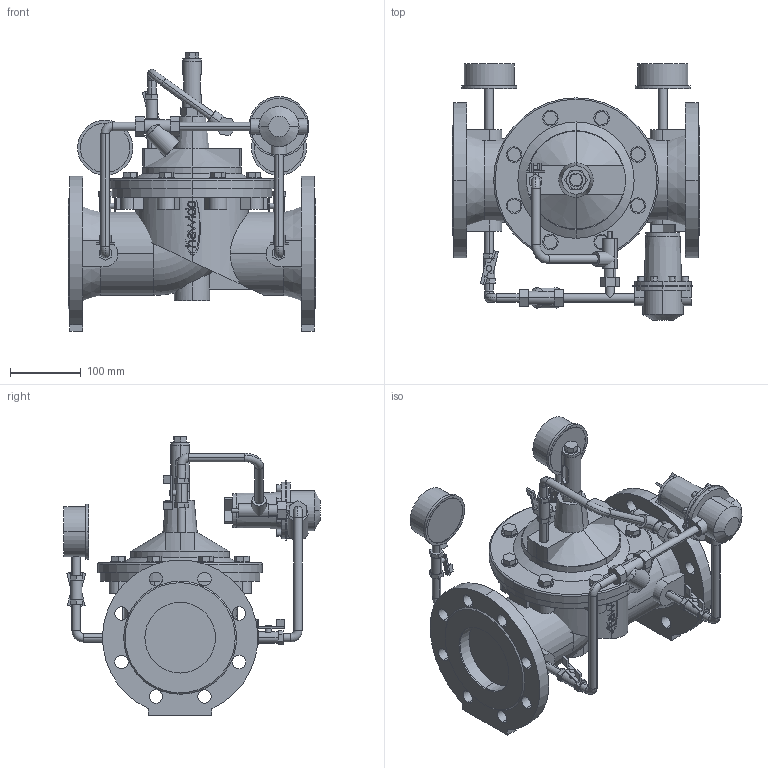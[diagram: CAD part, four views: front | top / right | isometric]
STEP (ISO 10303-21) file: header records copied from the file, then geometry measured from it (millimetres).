
FILE_DESCRIPTION(('STEP AP214'),'1');
FILE_NAME('S:/EK/USER/CAT6/3DHomepage_27-04-2012/CH-Produkte/1500/1500_PN16_DN100.STP','2013-01-18T08:39:36',(' '),(' '),'Spatial InterOp 3D',' ',' ');
FILE_SCHEMA(('automotive_design'));
Length unit declared in the file: millimetre
Products named in the file (174): 3D-Objekt
Bounding box: 350 x 362.89 x 394.8 mm (x, y, z)
Volume: 8504131.1 mm3; surface area: 957777.6 mm2
Topology: 174 solids, 174 shells, 1261 faces, 2737 edges, 1827 vertices
Faces by surface type: plane 861, cylinder 361, cone 21, torus 18
Entity records: 57705 total; most frequent: CARTESIAN_POINT 15131, DIRECTION 6399, ORIENTED_EDGE 5476, EDGE_CURVE 2738, AXIS2_PLACEMENT_3D 2258, LINE 1883, VECTOR 1883, VERTEX_POINT 1828
